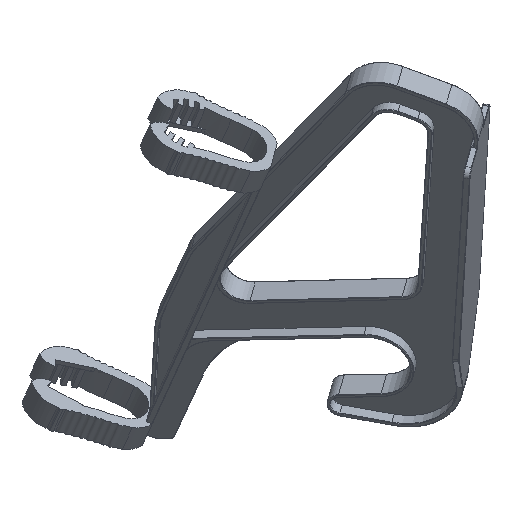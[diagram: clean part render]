
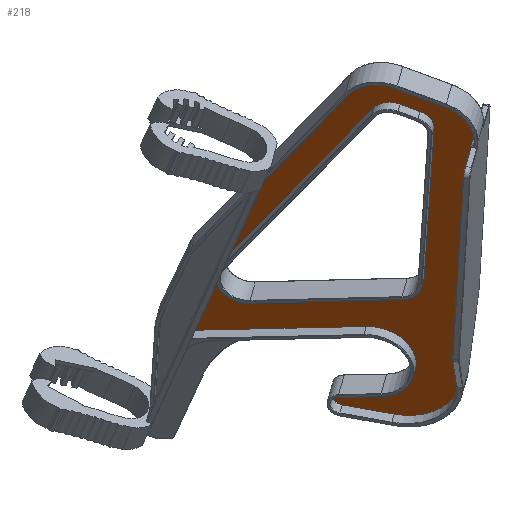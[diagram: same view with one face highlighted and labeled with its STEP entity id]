
A CAD part, front view. The second image highlights one B-rep face of the part: STEP entity #218.
In plain terms, the highlighted free-form (B-spline) face has degree [1, 1] with [2, 2] control points.
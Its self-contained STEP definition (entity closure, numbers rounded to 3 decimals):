
#218=ADVANCED_FACE('',(#786),#787,.F.);
#786=FACE_OUTER_BOUND('',#4574,.T.);
#787=B_SPLINE_SURFACE_WITH_KNOTS('',1,1,((#4575,#4576),(#4577,#4578)),.UNSPECIFIED.,.F.,.F.,.F.,(2,2),(2,2),(0.0,1.0),(0.0,1.0),.UNSPECIFIED.);
#4574=EDGE_LOOP('',(#8402,#8403,#8404,#8405,#8406,#8407,#8408,#8409,#8410,#8411,#8412,#8413,#8414,#8415,#8416,#8417,#8418,#8419,#8420,#8421,#8422,#8423));
#4575=CARTESIAN_POINT('',(-48.211,-58.682,-932.242));
#4576=CARTESIAN_POINT('',(-48.211,60.431,-1057.722));
#4577=CARTESIAN_POINT('',(57.525,-73.706,-946.503));
#4578=CARTESIAN_POINT('',(57.525,45.408,-1071.983));
#8402=ORIENTED_EDGE('',*,*,#10260,.F.);
#8403=ORIENTED_EDGE('',*,*,#9753,.T.);
#8404=ORIENTED_EDGE('',*,*,#10261,.T.);
#8405=ORIENTED_EDGE('',*,*,#10262,.F.);
#8406=ORIENTED_EDGE('',*,*,#10263,.F.);
#8407=ORIENTED_EDGE('',*,*,#10264,.F.);
#8408=ORIENTED_EDGE('',*,*,#10265,.F.);
#8409=ORIENTED_EDGE('',*,*,#10266,.F.);
#8410=ORIENTED_EDGE('',*,*,#10267,.F.);
#8411=ORIENTED_EDGE('',*,*,#10268,.F.);
#8412=ORIENTED_EDGE('',*,*,#9745,.T.);
#8413=ORIENTED_EDGE('',*,*,#10269,.T.);
#8414=ORIENTED_EDGE('',*,*,#10270,.T.);
#8415=ORIENTED_EDGE('',*,*,#10271,.T.);
#8416=ORIENTED_EDGE('',*,*,#10272,.T.);
#8417=ORIENTED_EDGE('',*,*,#10273,.T.);
#8418=ORIENTED_EDGE('',*,*,#10274,.F.);
#8419=ORIENTED_EDGE('',*,*,#10275,.T.);
#8420=ORIENTED_EDGE('',*,*,#10276,.F.);
#8421=ORIENTED_EDGE('',*,*,#10235,.F.);
#8422=ORIENTED_EDGE('',*,*,#10231,.F.);
#8423=ORIENTED_EDGE('',*,*,#10233,.T.);
#9745=EDGE_CURVE('',#10850,#10848,#10851,.T.);
#9753=EDGE_CURVE('',#10866,#10864,#10867,.T.);
#10231=EDGE_CURVE('',#11678,#11676,#11680,.T.);
#10233=EDGE_CURVE('',#11678,#11681,#11683,.F.);
#10235=EDGE_CURVE('',#11676,#11684,#11686,.T.);
#10260=EDGE_CURVE('',#10866,#11681,#11722,.T.);
#10261=EDGE_CURVE('',#10864,#11723,#11724,.T.);
#10262=EDGE_CURVE('',#11725,#11723,#11726,.F.);
#10263=EDGE_CURVE('',#11727,#11725,#11728,.T.);
#10264=EDGE_CURVE('',#11729,#11727,#11730,.F.);
#10265=EDGE_CURVE('',#11731,#11729,#11732,.T.);
#10266=EDGE_CURVE('',#11733,#11731,#11734,.F.);
#10267=EDGE_CURVE('',#11735,#11733,#11736,.T.);
#10268=EDGE_CURVE('',#10850,#11735,#11737,.F.);
#10269=EDGE_CURVE('',#10848,#11738,#11739,.T.);
#10270=EDGE_CURVE('',#11738,#11740,#11741,.T.);
#10271=EDGE_CURVE('',#11740,#11742,#11743,.T.);
#10272=EDGE_CURVE('',#11742,#11744,#11745,.F.);
#10273=EDGE_CURVE('',#11744,#11746,#11747,.T.);
#10274=EDGE_CURVE('',#11748,#11746,#11749,.T.);
#10275=EDGE_CURVE('',#11748,#11750,#11751,.T.);
#10276=EDGE_CURVE('',#11684,#11750,#11752,.T.);
#10848=VERTEX_POINT('',#12583);
#10850=VERTEX_POINT('',#12586);
#10851=LINE('',#12587,#12588);
#10864=VERTEX_POINT('',#12612);
#10866=VERTEX_POINT('',#12615);
#10867=LINE('',#12616,#12617);
#11676=VERTEX_POINT('',#14014);
#11678=VERTEX_POINT('',#14017);
#11680=LINE('',#14020,#14021);
#11681=VERTEX_POINT('',#14022);
#11683=CIRCLE('',#14025,15.366);
#11684=VERTEX_POINT('',#14026);
#11686=CIRCLE('',#14029,16.645);
#11722=LINE('',#14081,#14082);
#11723=VERTEX_POINT('',#14083);
#11724=LINE('',#14084,#14085);
#11725=VERTEX_POINT('',#14086);
#11726=CIRCLE('',#14087,8.821);
#11727=VERTEX_POINT('',#14088);
#11728=LINE('',#14089,#14090);
#11729=VERTEX_POINT('',#14091);
#11730=CIRCLE('',#14092,7.5);
#11731=VERTEX_POINT('',#14093);
#11732=LINE('',#14094,#14095);
#11733=VERTEX_POINT('',#14096);
#11734=CIRCLE('',#14097,9.0);
#11735=VERTEX_POINT('',#14098);
#11736=LINE('',#14099,#14100);
#11737=CIRCLE('',#14101,10.454);
#11738=VERTEX_POINT('',#14102);
#11739=LINE('',#14103,#14104);
#11740=VERTEX_POINT('',#14105);
#11741=CIRCLE('',#14106,15.534);
#11742=VERTEX_POINT('',#14107);
#11743=LINE('',#14108,#14109);
#11744=VERTEX_POINT('',#14110);
#11745=CIRCLE('',#14111,3.976);
#11746=VERTEX_POINT('',#14112);
#11747=LINE('',#14113,#14114);
#11748=VERTEX_POINT('',#14115);
#11749=CIRCLE('',#14116,23.749);
#11750=VERTEX_POINT('',#14117);
#11751=LINE('',#14118,#14119);
#11752=LINE('',#14120,#14121);
#12583=CARTESIAN_POINT('',(-47.584,39.667,-1036.027));
#12586=CARTESIAN_POINT('',(-38.417,18.29,-1016.116));
#12587=CARTESIAN_POINT('',(166.695,-460.004,-570.623));
#12588=VECTOR('',#15388,1.0);
#12612=CARTESIAN_POINT('',(-34.736,9.707,-1008.121));
#12615=CARTESIAN_POINT('',(-20.887,-22.587,-978.042));
#12616=CARTESIAN_POINT('',(166.695,-460.004,-570.623));
#12617=VECTOR('',#15397,1.0);
#14014=CARTESIAN_POINT('',(47.081,-66.739,-950.871));
#14017=CARTESIAN_POINT('',(27.793,-68.282,-943.757));
#14020=CARTESIAN_POINT('',(-296.441,-94.22,-824.17));
#14021=VECTOR('',#16370,1.0);
#14022=CARTESIAN_POINT('',(10.547,-61.455,-946.041));
#14025=AXIS2_PLACEMENT_3D('',#16372,#16373,#16374);
#14026=CARTESIAN_POINT('',(56.759,-56.117,-964.814));
#14029=AXIS2_PLACEMENT_3D('',#16376,#16377,#16378);
#14081=CARTESIAN_POINT('',(256.406,-365.458,-695.75));
#14082=VECTOR('',#16419,1.0);
#14083=CARTESIAN_POINT('',(18.838,-56.276,-953.857));
#14084=CARTESIAN_POINT('',(266.664,-361.503,-702.836));
#14085=VECTOR('',#16420,1.0);
#14086=CARTESIAN_POINT('',(28.662,-60.188,-952.53));
#14087=AXIS2_PLACEMENT_3D('',#16421,#16422,#16423);
#14088=CARTESIAN_POINT('',(36.,-59.647,-955.189));
#14089=CARTESIAN_POINT('',(-296.198,-84.137,-834.861));
#14090=VECTOR('',#16424,1.0);
#14091=CARTESIAN_POINT('',(41.188,-55.196,-961.354));
#14092=AXIS2_PLACEMENT_3D('',#16425,#16426,#16427);
#14093=CARTESIAN_POINT('',(37.465,-1.432,-1016.932));
#14094=CARTESIAN_POINT('',(72.438,-506.501,-494.82));
#14095=VECTOR('',#16428,1.0);
#14096=CARTESIAN_POINT('',(30.504,5.311,-1022.054));
#14097=AXIS2_PLACEMENT_3D('',#16429,#16430,#16431);
#14098=CARTESIAN_POINT('',(-26.266,21.96,-1023.439));
#14099=CARTESIAN_POINT('',(26.814,6.393,-1022.144));
#14100=VECTOR('',#16432,1.0);
#14101=AXIS2_PLACEMENT_3D('',#16433,#16434,#16435);
#14102=CARTESIAN_POINT('',(16.175,21.12,-1034.632));
#14103=CARTESIAN_POINT('',(27.794,17.74,-1034.377));
#14104=VECTOR('',#16436,1.0);
#14105=CARTESIAN_POINT('',(22.46,41.157,-1057.528));
#14106=AXIS2_PLACEMENT_3D('',#16437,#16438,#16439);
#14107=CARTESIAN_POINT('',(6.777,45.687,-1057.837));
#14108=CARTESIAN_POINT('',(31.955,38.415,-1057.341));
#14109=VECTOR('',#16440,1.0);
#14110=CARTESIAN_POINT('',(7.348,51.018,-1063.616));
#14111=AXIS2_PLACEMENT_3D('',#16441,#16442,#16443);
#14112=CARTESIAN_POINT('',(26.467,49.086,-1067.021));
#14113=CARTESIAN_POINT('',(-176.563,69.603,-1030.861));
#14114=VECTOR('',#16444,1.0);
#14115=CARTESIAN_POINT('',(50.03,34.389,-1058.243));
#14116=AXIS2_PLACEMENT_3D('',#16445,#16446,#16447);
#14117=CARTESIAN_POINT('',(55.586,-55.412,-965.223));
#14118=CARTESIAN_POINT('',(83.621,-508.498,-495.898));
#14119=VECTOR('',#16448,1.0);
#14120=CARTESIAN_POINT('',(222.457,-155.666,-907.095));
#14121=VECTOR('',#16449,1.0);
#15388=DIRECTION('',(-0.299,0.698,-0.65));
#15397=DIRECTION('',(-0.299,0.698,-0.65));
#16370=DIRECTION('',(0.936,0.075,-0.345));
#16372=CARTESIAN_POINT('',(23.242,-57.55,-953.768));
#16373=DIRECTION('',(0.192,0.712,0.676));
#16374=DIRECTION('',(0.0,-0.688,0.725));
#16376=CARTESIAN_POINT('',(40.564,-55.305,-961.061));
#16377=DIRECTION('',(0.192,0.712,0.676));
#16378=DIRECTION('',(0.0,-0.688,0.725));
#16419=DIRECTION('',(0.53,-0.655,0.539));
#16420=DIRECTION('',(0.531,-0.654,0.538));
#16421=CARTESIAN_POINT('',(26.116,-54.022,-958.302));
#16422=DIRECTION('',(0.192,0.712,0.676));
#16423=DIRECTION('',(0.0,-0.688,0.725));
#16424=DIRECTION('',(-0.938,-0.069,0.34));
#16425=CARTESIAN_POINT('',(33.836,-54.404,-960.096));
#16426=DIRECTION('',(0.192,0.712,0.676));
#16427=DIRECTION('',(0.0,-0.688,0.725));
#16428=DIRECTION('',(0.048,-0.694,0.718));
#16429=CARTESIAN_POINT('',(28.643,-0.482,-1015.422));
#16430=DIRECTION('',(0.192,0.712,0.676));
#16431=DIRECTION('',(0.0,-0.688,0.725));
#16432=DIRECTION('',(0.959,-0.281,0.023));
#16433=CARTESIAN_POINT('',(-28.428,15.232,-1015.736));
#16434=DIRECTION('',(0.192,0.712,0.676));
#16435=DIRECTION('',(0.0,-0.688,0.725));
#16436=DIRECTION('',(0.96,-0.279,0.021));
#16437=CARTESIAN_POINT('',(19.338,31.133,-1046.079));
#16438=DIRECTION('',(0.192,0.712,0.676));
#16439=DIRECTION('',(0.0,-0.688,0.725));
#16440=DIRECTION('',(-0.961,0.277,-0.019));
#16441=CARTESIAN_POINT('',(7.576,48.253,-1060.768));
#16442=DIRECTION('',(0.192,0.712,0.676));
#16443=DIRECTION('',(0.0,-0.688,0.725));
#16444=DIRECTION('',(0.98,-0.099,-0.174));
#16445=CARTESIAN_POINT('',(27.828,32.57,-1050.009));
#16446=DIRECTION('',(0.192,0.712,0.676));
#16447=DIRECTION('',(0.0,-0.688,0.725));
#16448=DIRECTION('',(0.043,-0.694,0.719));
#16449=DIRECTION('',(-0.821,0.493,-0.286));
